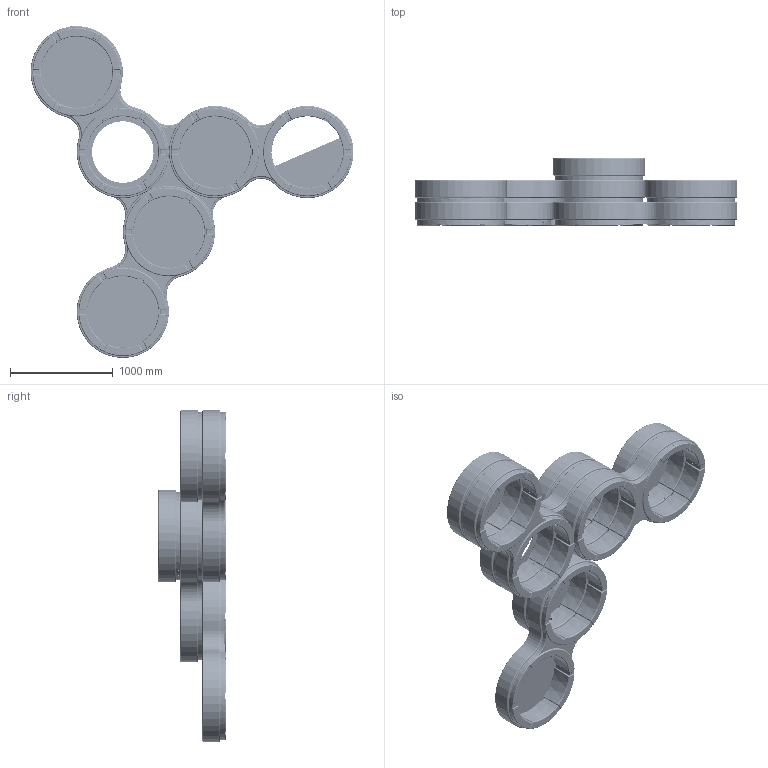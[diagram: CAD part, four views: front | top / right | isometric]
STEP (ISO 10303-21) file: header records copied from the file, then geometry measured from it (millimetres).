
FILE_DESCRIPTION (( 'STEP AP214' ), '1' );
FILE_NAME ('05_forma_hpl_mix_step.STEP', '2025-08-06T14:45:31', ( '' ), ( '' ), 'SwSTEP 2.0', 'SolidWorks 2019', '' );
FILE_SCHEMA (( 'AUTOMOTIVE_DESIGN' ));
Length unit declared in the file: millimetre
Products named in the file (8): 192 9040 Emblem Ø44 40MM; 213 82xx_Modul_2 REV_C; 05_forma_hpl_mix_step; 213_93xx HPL_Planter_Rev_B; 213 81xx Modul_ 01_REV_C; 213 83xx_Modul 3 REV_C; 213 94xx_HPL_plade_Seat&planter_REV_B; 213 91xx_HPL_Seat_Rev_D
Assembly tree (19 placements, depth 2):
  05_forma_hpl_mix_step
    213 82xx_Modul_2 REV_C  x3
    213 83xx_Modul 3 REV_C
    213 81xx Modul_ 01_REV_C  x3
    213_93xx HPL_Planter_Rev_B
    213 94xx_HPL_plade_Seat&planter_REV_B
    213 91xx_HPL_Seat_Rev_D  x4
    192 9040 Emblem Ø44 40MM  x6
Bounding box: 3150 x 659 x 3238.27 mm (x, y, z)
Volume: 136891585.9 mm3; surface area: 41840766.5 mm2
Topology: 13 solids, 32 shells, 14581 faces, 37890 edges, 24239 vertices
Faces by surface type: cylinder 4350, plane 4283, bspline 4238, torus 1458, cone 156, sphere 96
Entity records: 334090 total; most frequent: CARTESIAN_POINT 207746, ORIENTED_EDGE 30142, DIRECTION 20023, EDGE_CURVE 15071, VERTEX_POINT 9641, AXIS2_PLACEMENT_3D 8141, B_SPLINE_CURVE_WITH_KNOTS 6723, EDGE_LOOP 6414
